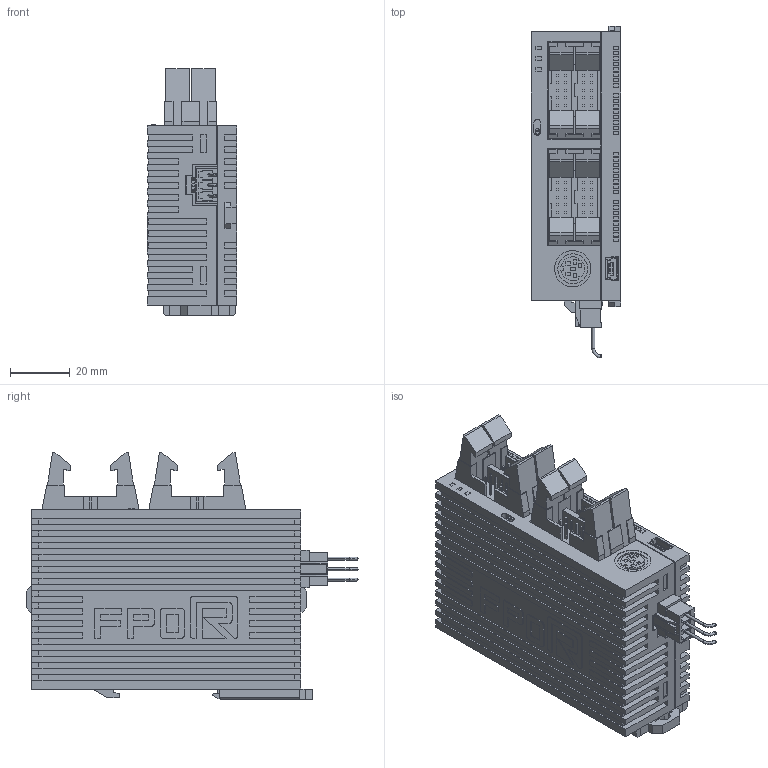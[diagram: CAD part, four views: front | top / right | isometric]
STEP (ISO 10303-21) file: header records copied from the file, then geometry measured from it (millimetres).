
FILE_DESCRIPTION (( 'STEP AP203' ), '1' );
FILE_NAME ('afp0rc32t.STEP', '2013-06-28T04:43:10', ( 'sunx' ), ( 'sunx' ), 'SwSTEP 2.0', 'SolidWorks 2010', '' );
FILE_SCHEMA (( 'CONFIG_CONTROL_DESIGN' ));
Length unit declared in the file: millimetre
Products named in the file (1): afp0rc32t
Bounding box: 30 x 111.2 x 82.7 mm (x, y, z)
Volume: 166786.1 mm3; surface area: 35787.2 mm2
Topology: 1 solids, 1 shells, 1278 faces, 3429 edges, 2268 vertices
Faces by surface type: plane 1212, cylinder 60, torus 6
Entity records: 39224 total; most frequent: CARTESIAN_POINT 6976, ORIENTED_EDGE 6858, DIRECTION 6113, EDGE_CURVE 3429, VECTOR 3303, LINE 3303, VERTEX_POINT 2268, AXIS2_PLACEMENT_3D 1405
